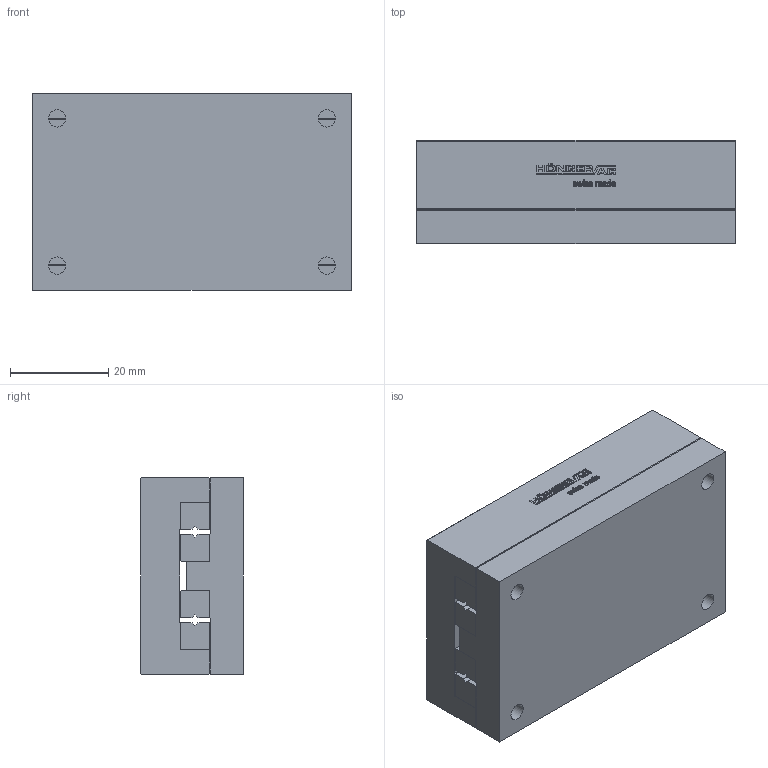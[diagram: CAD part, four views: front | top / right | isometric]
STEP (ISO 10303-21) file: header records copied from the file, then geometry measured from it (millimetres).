
FILE_DESCRIPTION(/* description */ ('STEP AP214'),/* implementation_level */ '2;1');
FILE_NAME(/* name */ 'NK 2-65-B(0)',/* time_stamp */ '2025-04-22T17:47:59+02:00',/* author */ ('License CC BY-ND 4.0'),/* organization */ ('CADENAS'),/* preprocessor_version */ 'ST-DEVELOPER v19.3',/* originating_system */ 'PARTsolutions',/* authorisation */ ' ');
FILE_SCHEMA (('AUTOMOTIVE_DESIGN {1 0 10303 214 3 1 1}'));
Length unit declared in the file: millimetre
Products named in the file (3): NK 2-65-B(0); NK 2-65-B_1; NK 2-65-B_2
Assembly tree (2 placements, depth 2):
  NK 2-65-B(0)
    NK 2-65-B_1
    NK 2-65-B_2
Bounding box: 65 x 21 x 40 mm (x, y, z)
Volume: 52160.1 mm3; surface area: 20131.1 mm2
Topology: 2 solids, 2 shells, 579 faces, 1612 edges, 1068 vertices
Faces by surface type: cylinder 306, plane 261, cone 12
Full cylindrical faces by diameter (mm): 2.459 x6, 3.5 x4, 6 x4
Entity records: 18735 total; most frequent: DIRECTION 3374, CARTESIAN_POINT 3236, ORIENTED_EDGE 3172, EDGE_CURVE 1586, AXIS2_PLACEMENT_3D 1206, VERTEX_POINT 1068, LINE 962, VECTOR 962
